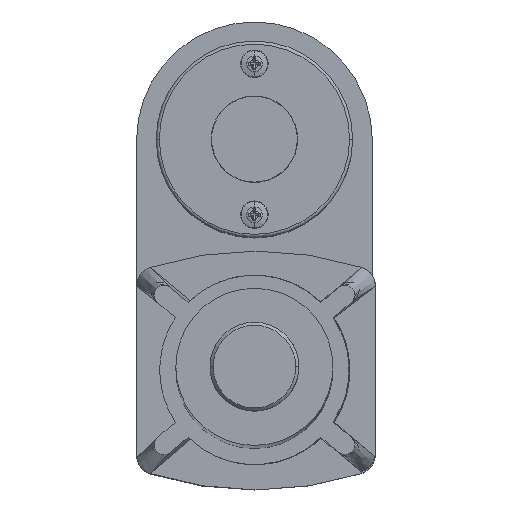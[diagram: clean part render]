
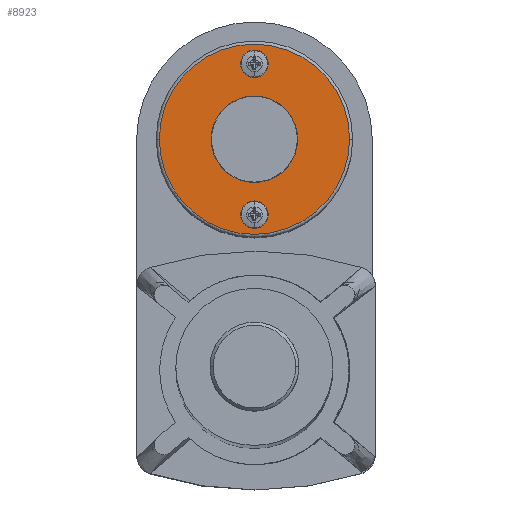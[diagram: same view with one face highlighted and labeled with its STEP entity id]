
A CAD part, top view. The second image highlights one B-rep face of the part: STEP entity #8923.
In plain terms, the highlighted planar face has unit normal (0, 0, 1).
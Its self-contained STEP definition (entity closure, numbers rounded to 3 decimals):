
#76 = EDGE_CURVE ( 'NONE', #8695, #6677, #2719, .T. ) ;
#186 = FACE_BOUND ( 'NONE', #1286, .T. ) ;
#249 = DIRECTION ( 'NONE',  ( -1., 0., 0. ) ) ;
#253 = ORIENTED_EDGE ( 'NONE', *, *, #1707, .F. ) ;
#334 = CARTESIAN_POINT ( 'NONE',  ( 38.608, -31.638, 406.098 ) ) ;
#353 = AXIS2_PLACEMENT_3D ( 'NONE', #3208, #788, #1618 ) ;
#788 = DIRECTION ( 'NONE',  ( 0., 0., 1. ) ) ;
#912 = DIRECTION ( 'NONE',  ( -1., 0., 0. ) ) ;
#1057 = DIRECTION ( 'NONE',  ( -1., 0., 0. ) ) ;
#1286 = EDGE_LOOP ( 'NONE', ( #5044, #253 ) ) ;
#1339 = FACE_BOUND ( 'NONE', #1392, .T. ) ;
#1392 = EDGE_LOOP ( 'NONE', ( #2731, #8831 ) ) ;
#1549 = CARTESIAN_POINT ( 'NONE',  ( 38.608, -7.238, 406.098 ) ) ;
#1572 = CARTESIAN_POINT ( 'NONE',  ( 69.358, -31.638, 406.098 ) ) ;
#1618 = DIRECTION ( 'NONE',  ( -1., 0., 0. ) ) ;
#1707 = EDGE_CURVE ( 'NONE', #2972, #7260, #5504, .T. ) ;
#2177 = CARTESIAN_POINT ( 'NONE',  ( 36.068, -7.238, 406.098 ) ) ;
#2553 = AXIS2_PLACEMENT_3D ( 'NONE', #334, #9372, #8585 ) ;
#2719 = CIRCLE ( 'NONE', #2553, 30.75 ) ;
#2731 = ORIENTED_EDGE ( 'NONE', *, *, #5871, .F. ) ;
#2902 = CIRCLE ( 'NONE', #10304, 2.54 ) ;
#2962 = EDGE_LOOP ( 'NONE', ( #3600, #8890 ) ) ;
#2972 = VERTEX_POINT ( 'NONE', #9676 ) ;
#3156 = AXIS2_PLACEMENT_3D ( 'NONE', #5058, #4301, #7558 ) ;
#3208 = CARTESIAN_POINT ( 'NONE',  ( 38.608, -31.638, 406.098 ) ) ;
#3268 = DIRECTION ( 'NONE',  ( 0., 0., 1. ) ) ;
#3600 = ORIENTED_EDGE ( 'NONE', *, *, #76, .T. ) ;
#3753 = CIRCLE ( 'NONE', #4439, 2.54 ) ;
#3893 = FACE_OUTER_BOUND ( 'NONE', #2962, .T. ) ;
#4189 = CARTESIAN_POINT ( 'NONE',  ( 38.608, -7.238, 406.098 ) ) ;
#4301 = DIRECTION ( 'NONE',  ( 0., 0., 1. ) ) ;
#4308 = VERTEX_POINT ( 'NONE', #2177 ) ;
#4439 = AXIS2_PLACEMENT_3D ( 'NONE', #6670, #7461, #1057 ) ;
#5044 = ORIENTED_EDGE ( 'NONE', *, *, #8880, .F. ) ;
#5058 = CARTESIAN_POINT ( 'NONE',  ( 38.608, -31.638, 406.098 ) ) ;
#5152 = PLANE ( 'NONE',  #3156 ) ;
#5504 = CIRCLE ( 'NONE', #7727, 2.54 ) ;
#5871 = EDGE_CURVE ( 'NONE', #4308, #6627, #7085, .T. ) ;
#6112 = AXIS2_PLACEMENT_3D ( 'NONE', #1549, #9612, #9542 ) ;
#6205 = CARTESIAN_POINT ( 'NONE',  ( 36.068, -56.038, 406.098 ) ) ;
#6534 = CIRCLE ( 'NONE', #353, 30.75 ) ;
#6627 = VERTEX_POINT ( 'NONE', #8605 ) ;
#6670 = CARTESIAN_POINT ( 'NONE',  ( 38.608, -56.038, 406.098 ) ) ;
#6677 = VERTEX_POINT ( 'NONE', #1572 ) ;
#6817 = EDGE_CURVE ( 'NONE', #6627, #4308, #2902, .T. ) ;
#7085 = CIRCLE ( 'NONE', #6112, 2.54 ) ;
#7260 = VERTEX_POINT ( 'NONE', #6205 ) ;
#7461 = DIRECTION ( 'NONE',  ( 0., 0., 1. ) ) ;
#7558 = DIRECTION ( 'NONE',  ( -1., 0., 0. ) ) ;
#7582 = DIRECTION ( 'NONE',  ( 0., 0., 1. ) ) ;
#7727 = AXIS2_PLACEMENT_3D ( 'NONE', #8367, #7582, #249 ) ;
#8367 = CARTESIAN_POINT ( 'NONE',  ( 38.608, -56.038, 406.098 ) ) ;
#8585 = DIRECTION ( 'NONE',  ( -1., 0., 0. ) ) ;
#8605 = CARTESIAN_POINT ( 'NONE',  ( 41.148, -7.238, 406.098 ) ) ;
#8695 = VERTEX_POINT ( 'NONE', #8845 ) ;
#8831 = ORIENTED_EDGE ( 'NONE', *, *, #6817, .F. ) ;
#8845 = CARTESIAN_POINT ( 'NONE',  ( 7.858, -31.638, 406.098 ) ) ;
#8880 = EDGE_CURVE ( 'NONE', #7260, #2972, #3753, .T. ) ;
#8890 = ORIENTED_EDGE ( 'NONE', *, *, #10523, .T. ) ;
#8923 = ADVANCED_FACE ( 'NONE', ( #186, #1339, #3893 ), #5152, .T. ) ;
#9372 = DIRECTION ( 'NONE',  ( 0., 0., 1. ) ) ;
#9542 = DIRECTION ( 'NONE',  ( -1., 0., 0. ) ) ;
#9612 = DIRECTION ( 'NONE',  ( 0., 0., 1. ) ) ;
#9676 = CARTESIAN_POINT ( 'NONE',  ( 41.148, -56.038, 406.098 ) ) ;
#10304 = AXIS2_PLACEMENT_3D ( 'NONE', #4189, #3268, #912 ) ;
#10523 = EDGE_CURVE ( 'NONE', #6677, #8695, #6534, .T. ) ;
